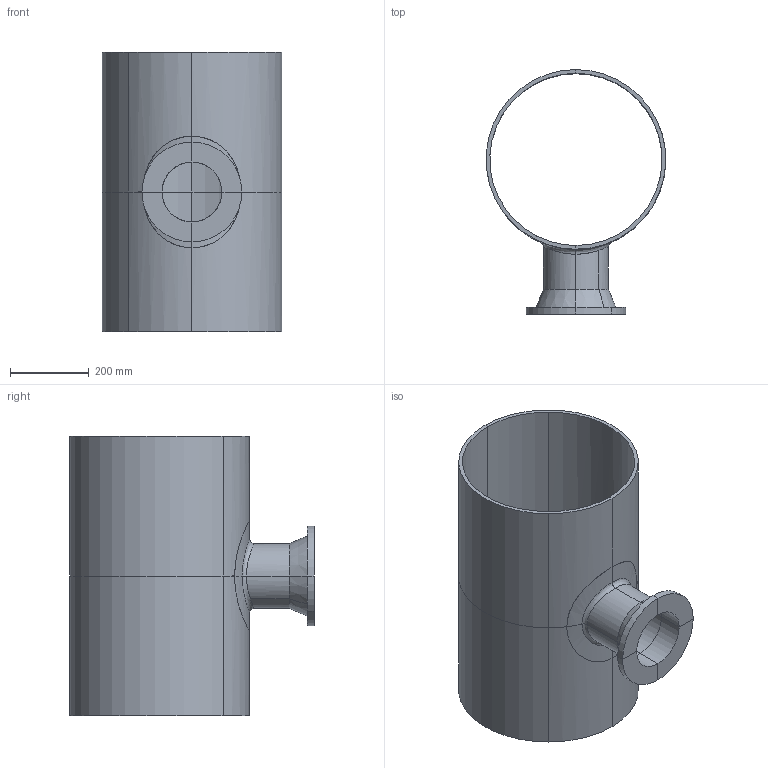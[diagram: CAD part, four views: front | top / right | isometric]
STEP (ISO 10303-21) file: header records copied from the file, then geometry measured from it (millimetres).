
FILE_DESCRIPTION(('STEP AP214'),'1');
FILE_NAME('Nozzle Shell Junction.stp','2020-09-19T08:01:12',(' '),(' '),'Spatial InterOp 3D',' ',' ');
FILE_SCHEMA(('AUTOMOTIVE_DESIGN { 1 0 10303 214 1 1 1 1 }'));
Length unit declared in the file: metre
Products named in the file (1): Solid
Bounding box: 456.79 x 622.3 x 711.2 mm (x, y, z)
Volume: 10663427 mm3; surface area: 2329172 mm2
Topology: 20 solids, 20 shells, 160 faces, 366 edges, 240 vertices
Faces by surface type: plane 64, cylinder 58, bspline 32, cone 6
Entity records: 14231 total; most frequent: CARTESIAN_POINT 10550, ORIENTED_EDGE 720, DIRECTION 684, EDGE_CURVE 360, AXIS2_PLACEMENT_3D 256, VERTEX_POINT 240, LINE 172, VECTOR 172
